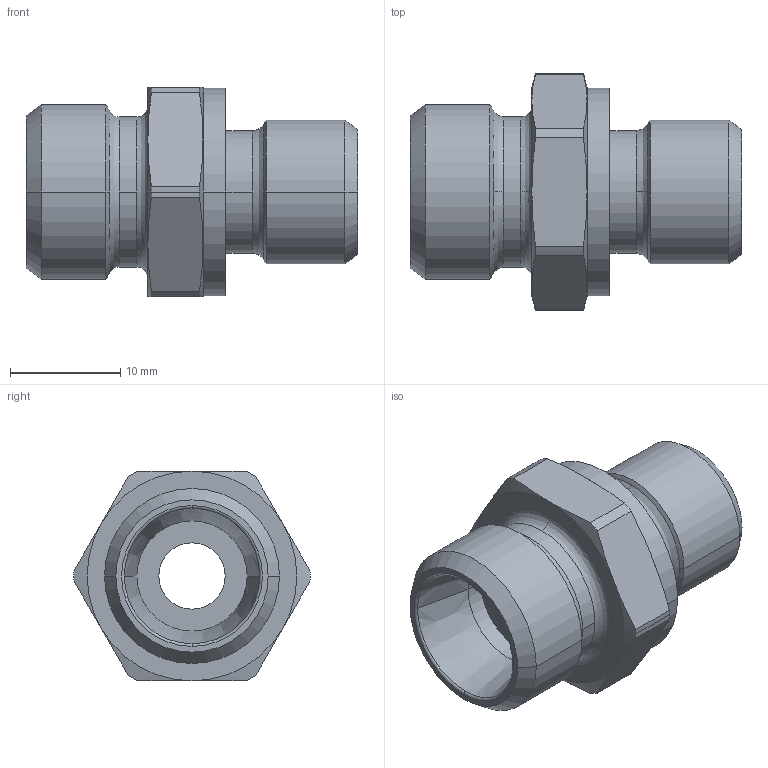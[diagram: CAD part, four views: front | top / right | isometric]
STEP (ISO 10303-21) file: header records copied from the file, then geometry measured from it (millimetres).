
FILE_DESCRIPTION((''),'2;1');
FILE_NAME('100506.stp','2007-10-30T14:17:54',(''),(''),'AutoCAD STEP 2000i','AutoCAD 2000i',', , ');
FILE_SCHEMA(('CONFIG_CONTROL_DESIGN'));
Length unit declared in the file: millimetre
Products named in the file (2): 100506.0; CHIAVE SMUSSATA#0
Assembly tree (1 placements, depth 2):
  100506.0
    CHIAVE SMUSSATA#0
Bounding box: 30 x 21.4 x 19 mm (x, y, z)
Volume: 4007.1 mm3; surface area: 2759.8 mm2
Topology: 1 solids, 1 shells, 75 faces, 185 edges, 117 vertices
Faces by surface type: cylinder 24, cone 24, plane 13, bspline 12, torus 2
Entity records: 2835 total; most frequent: CARTESIAN_POINT 955, DIRECTION 410, ORIENTED_EDGE 370, EDGE_CURVE 185, AXIS2_PLACEMENT_3D 184, CIRCLE 119, VERTEX_POINT 117, EDGE_LOOP 82
